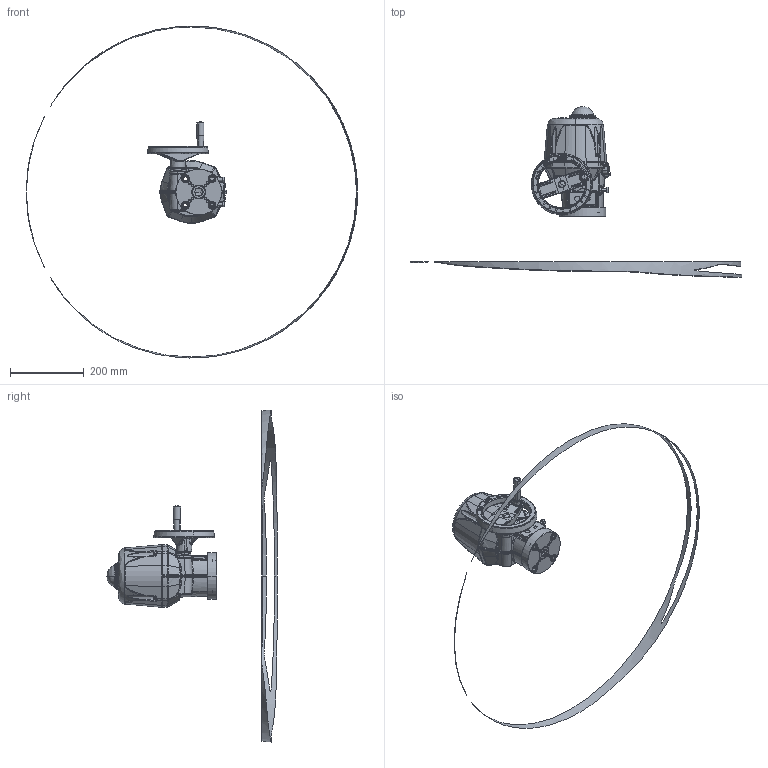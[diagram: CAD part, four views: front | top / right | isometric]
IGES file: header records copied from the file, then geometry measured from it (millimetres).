
Start section: SolidWorks IGES file using analytic representation for surfaces
Global section: file name: S:\Assemblages 3D produits\01-Actionneurs électriques\DV300-90A-G00\Carter long\DV75-90A-G00.IGS; native system: SolidWorks 2017; preprocessor: SolidWorks 2017; author: caillatl; date: 211214.110833; units: millimetre
Bounding box: 899.26 x 462.65 x 900.57 mm (x, y, z)
Surface area: 323912.2 mm2 (no closed solid volume)
Topology: 0 solids, 0 shells, 1506 faces, 16986 edges, 16953 vertices
Faces by surface type: bspline 1023, revolution 483
